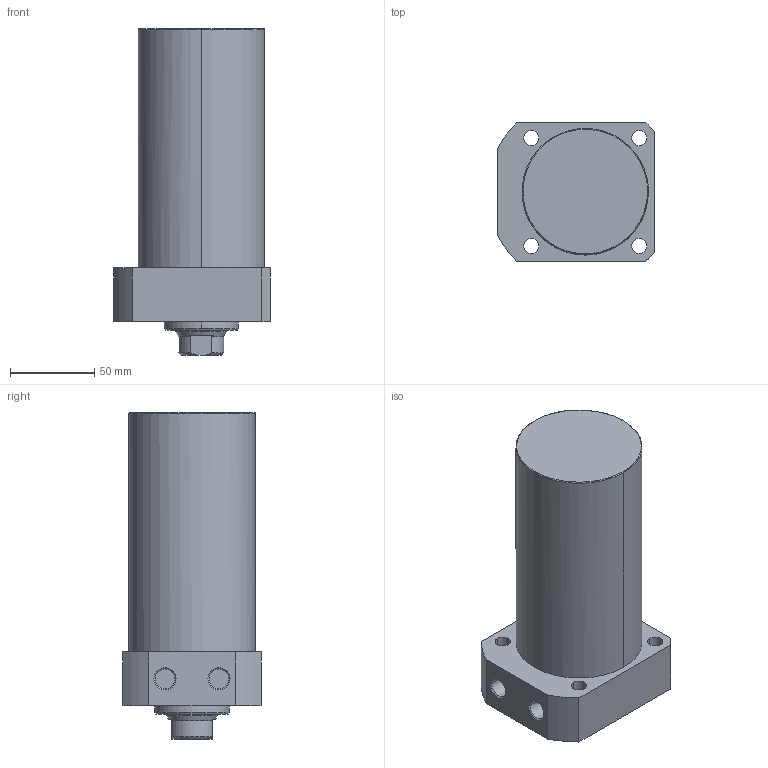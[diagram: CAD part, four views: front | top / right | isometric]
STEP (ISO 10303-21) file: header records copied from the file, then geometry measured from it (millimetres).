
FILE_DESCRIPTION((' '),'2;1');
FILE_NAME( 'TLLR-075CA-105.STEP.stp', '2025-10-24T16:35:06', (' '), ('--- Datakit www.datakit.com---'), ' Datakit CrossCadWare V2024.1 Dec 21 2023', 'Mastercam 2025', ' ');
FILE_SCHEMA(('AUTOMOTIVE_DESIGN { 1 0 10303 214 1 1 1 1 }'));
Length unit declared in the file: millimetre
Products named in the file (1): TLLR-075CA-105
Bounding box: 93 x 82 x 194 mm (x, y, z)
Volume: 862437 mm3; surface area: 67119.2 mm2
Topology: 1 solids, 1 shells, 63 faces, 177 edges, 122 vertices
Faces by surface type: cylinder 28, plane 19, cone 14, torus 2
Entity records: 2168 total; most frequent: CARTESIAN_POINT 405, DIRECTION 400, ORIENTED_EDGE 350, EDGE_CURVE 175, AXIS2_PLACEMENT_3D 169, VERTEX_POINT 122, CIRCLE 105, EDGE_LOOP 79
